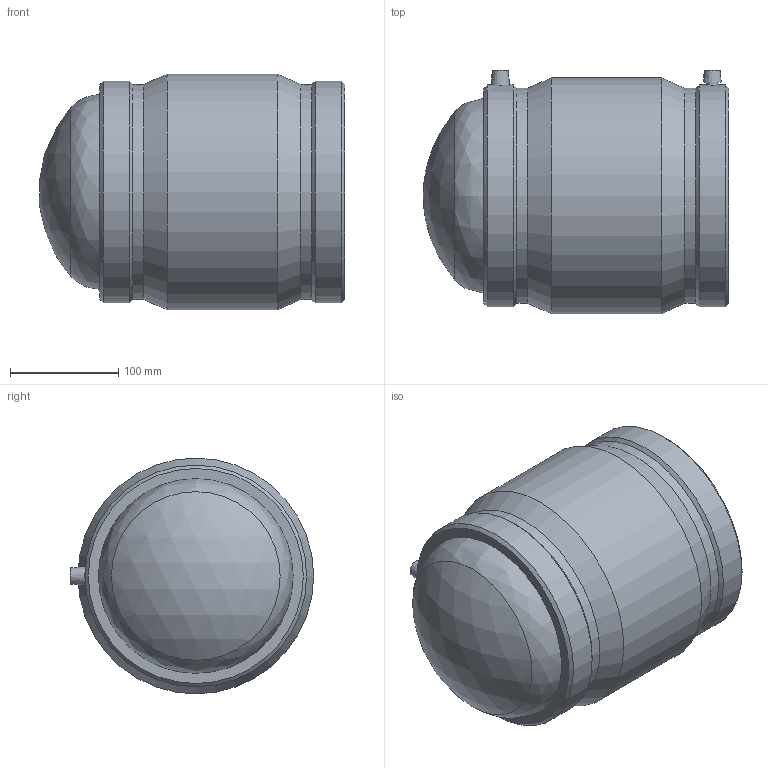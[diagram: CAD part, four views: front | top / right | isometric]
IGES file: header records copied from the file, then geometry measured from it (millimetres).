
Global section: file name: 491204180.ipt; native system: Autodesk Inventor 2015; preprocessor: unknown; author: KIM; date: 20171106.093759; units: millimetre
Bounding box: 282.37 x 225 x 218 mm (x, y, z)
Volume: 3684573 mm3; surface area: 360013.1 mm2
Topology: 2 solids, 3 shells, 40 faces, 84 edges, 58 vertices
Faces by surface type: plane 12, revolution 11, cylinder 8, cone 8, sphere 1
Full cylindrical faces by diameter (mm): 4 x2, 180 x1, 198.772 x2, 204.92 x2, 218 x1
